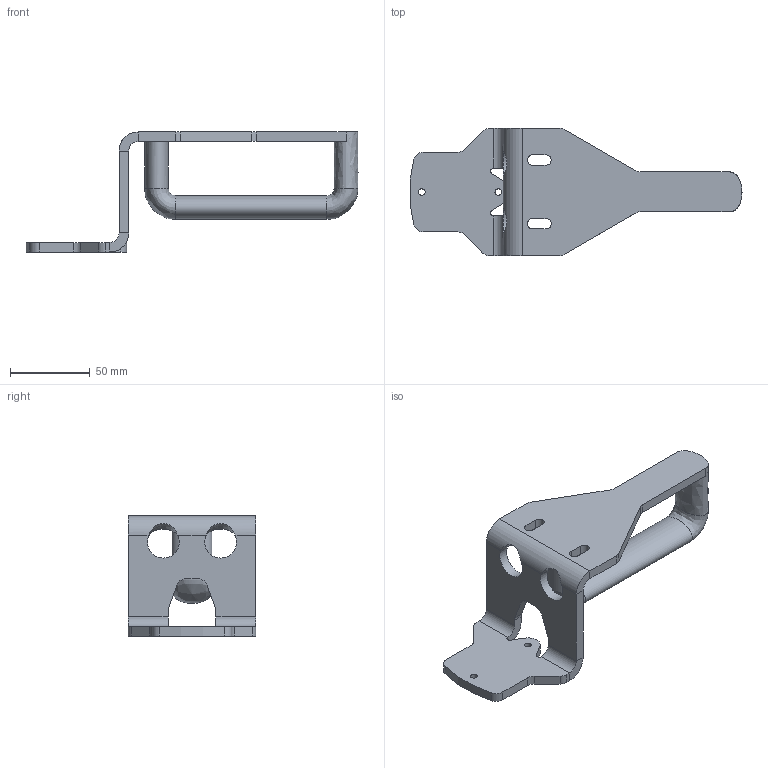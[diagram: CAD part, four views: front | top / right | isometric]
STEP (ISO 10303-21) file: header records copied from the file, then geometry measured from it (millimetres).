
FILE_DESCRIPTION(/* description */ (''),/* implementation_level */ '2;1');
FILE_NAME(/* name */ '2037689_A_Handgriff PSENmg 70.stp',/* time_stamp */ '2025-04-10T09:26:31+02:00',/* author */ ('EW-PE'),/* organization */ (''),/* preprocessor_version */ 'ST-DEVELOPER v20',/* originating_system */ 'Autodesk Inventor 2024',/* authorisation */ '');
FILE_SCHEMA (('AUTOMOTIVE_DESIGN { 1 0 10303 214 3 1 1 }'));
Length unit declared in the file: millimetre
Products named in the file (1): 2037689
Bounding box: 208.42 x 80 x 75.45 mm (x, y, z)
Volume: 138726.3 mm3; surface area: 45000.4 mm2
Topology: 1 solids, 1 shells, 74 faces, 212 edges, 133 vertices
Faces by surface type: plane 35, cylinder 32, bspline 7
Full cylindrical faces by diameter (mm): 4.134 x2
Entity records: 2754 total; most frequent: CARTESIAN_POINT 649, ORIENTED_EDGE 424, DIRECTION 413, EDGE_CURVE 212, AXIS2_PLACEMENT_3D 141, VERTEX_POINT 133, LINE 131, VECTOR 131
